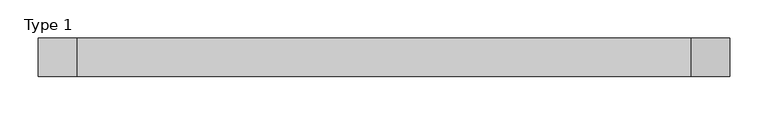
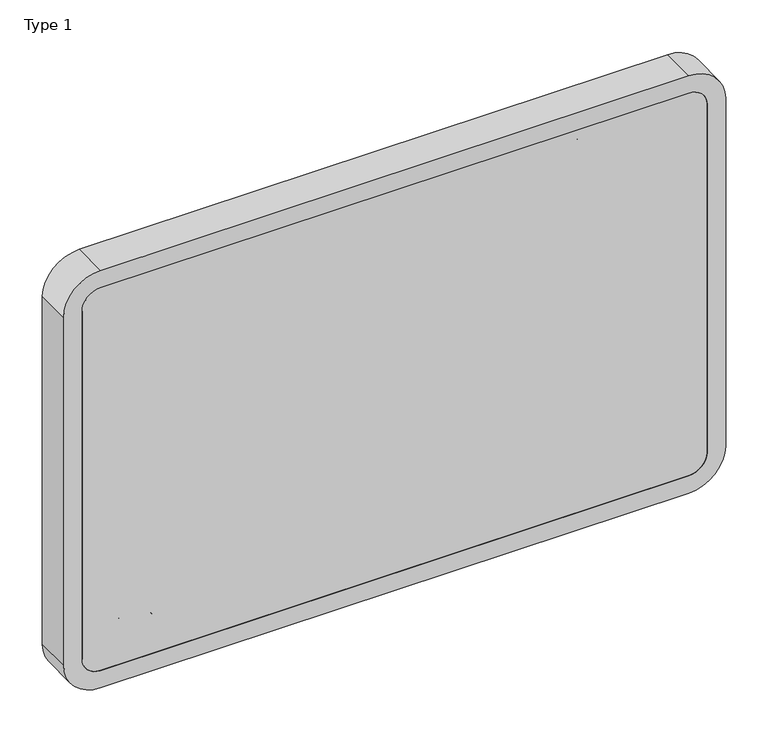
"""IFC4 building model written with IfcOpenShell, lengths in millimetres: proxy geometry, BIMHealth-Whiteboard-LOD2A-v1 : Type 1."""

import ifcopenshell
import ifcopenshell.guid

model = None  # the IFC model being written
_history = None  # IfcOwnerHistory: only IFC2X3 demands one
_inside = {}  # id of a spatial element -> (the spatial element, [elements in it])
_under = {}  # id of a project, library or spatial element -> (it, [spatial elements below it])
_declared = {}  # id of a project -> (the project, [libraries it declares])
_typed = {}  # id of a type object -> (the type object, [elements of that type])
_made_of = {}  # id of a material, layer set ... -> (it, [elements and type objects made of it])


def new_model(schema):
    """Start an empty IFC model of exactly this schema.

    Asked for "IFC4X3", IfcOpenShell would pick the latest addendum, in which some entities
    have other attributes; the version numbers below select the first issue.
    IFC2X3 requires an IfcOwnerHistory on every rooted entity: one is made here for all.
    """
    global model, _history
    if schema == "IFC4X3":
        model = ifcopenshell.file(schema_version=(4, 3, 0, 0))
    else:
        model = ifcopenshell.file(schema=schema)
    _inside.clear()
    _under.clear()
    _declared.clear()
    _typed.clear()
    _made_of.clear()
    _history = None
    if model.schema == "IFC2X3":
        org = make("IfcOrganization", Name="unknown")
        user = make(
            "IfcPersonAndOrganization",
            ThePerson=make("IfcPerson", FamilyName="unknown"),
            TheOrganization=org,
        )
        app = make(
            "IfcApplication",
            ApplicationDeveloper=org,
            Version="unknown",
            ApplicationFullName="unknown",
            ApplicationIdentifier="unknown",
        )
        _history = make(
            "IfcOwnerHistory",
            OwningUser=user,
            OwningApplication=app,
            ChangeAction="ADDED",
            CreationDate=0,
        )
    return model


def make(cls, **values):
    """One entity of the class cls with the attributes given. An attribute that is None is left unset."""
    return model.create_entity(
        cls, **{name: value for name, value in values.items() if value is not None}
    )


def rooted(cls, **values):
    """An entity with a GlobalId (a new one), such as an element, a storey or a relation."""
    return make(cls, GlobalId=ifcopenshell.guid.new(), OwnerHistory=_history, **values)


def si_unit(unit_type, name, prefix=None):
    """IfcSIUnit, for example si_unit("LENGTHUNIT", "METRE", prefix="MILLI")."""
    return make("IfcSIUnit", UnitType=unit_type, Prefix=prefix, Name=name)


def assignment(units):
    """IfcUnitAssignment: the units of a project."""
    return None if units is None else make("IfcUnitAssignment", Units=units)


def point(xyz):
    """IfcCartesianPoint."""
    return None if xyz is None else make("IfcCartesianPoint", Coordinates=xyz)


def direction(xyz):
    """IfcDirection."""
    return None if xyz is None else make("IfcDirection", DirectionRatios=xyz)


def frame(location, z_axis=None, x_axis=None):
    """IfcAxis2Placement3D, a coordinate frame: its origin and axes. An axis left out is left unset."""
    return make(
        "IfcAxis2Placement3D",
        Location=point(location),
        Axis=direction(z_axis),
        RefDirection=direction(x_axis),
    )


def frame_2d(location, x_axis=None):
    """IfcAxis2Placement2D, a coordinate frame in the plane: its origin and x axis."""
    return make(
        "IfcAxis2Placement2D", Location=point(location), RefDirection=direction(x_axis)
    )


def origin():
    """The frame at (0, 0, 0) with its axes left unset."""
    return frame((0.0, 0.0, 0.0))


def place(relative_to, where):
    """IfcLocalPlacement: puts the frame where relative to a parent placement (None: the world)."""
    return make(
        "IfcLocalPlacement", PlacementRelTo=relative_to, RelativePlacement=where
    )


def context(
    kind, dimensions, precision=None, world=None, true_north=None, identifier=None
):
    """IfcGeometricRepresentationContext, for example the 3D "Model" context."""
    return make(
        "IfcGeometricRepresentationContext",
        ContextIdentifier=identifier,
        ContextType=kind,
        CoordinateSpaceDimension=dimensions,
        Precision=precision,
        WorldCoordinateSystem=world,
        TrueNorth=true_north,
    )


def project(units=None, contexts=None):
    """IfcProject with its units and contexts."""
    return rooted(
        "IfcProject",
        Name="project",
        RepresentationContexts=contexts,
        UnitsInContext=assignment(units),
    )


def spatial(cls, under=None, at=None, **own):
    """A site, building, storey or space (cls), placed at a placement, below another one or the project."""
    s = rooted(cls, ObjectPlacement=at, **own)
    if under is not None:
        _under.setdefault(under.id(), (under, []))[1].append(s)
    return s


def polyline(points):
    """IfcPolyline through the points."""
    return make("IfcPolyline", Points=[point(p) for p in points])


def circle_curve(where, radius):
    """IfcCircle in the frame where."""
    return make("IfcCircle", Position=where, Radius=radius)


def trimmed(basis, trim1, trim2, sense, master):
    """IfcTrimmedCurve: the piece of a basis curve between two trims."""
    return make(
        "IfcTrimmedCurve",
        BasisCurve=basis,
        Trim1=trim1,
        Trim2=trim2,
        SenseAgreement=sense,
        MasterRepresentation=master,
    )


def segment(curve, same_sense, transition):
    """IfcCompositeCurveSegment."""
    return make(
        "IfcCompositeCurveSegment",
        Transition=transition,
        SameSense=same_sense,
        ParentCurve=curve,
    )


def composite_curve(segments, self_intersect=None):
    """IfcCompositeCurve: segments joined end to end."""
    return make("IfcCompositeCurve", Segments=segments, SelfIntersect=self_intersect)


def outline(outer, holes=None, kind="AREA"):
    """IfcArbitraryClosedProfileDef: a profile drawn as a closed curve; with holes, ...WithVoids."""
    if holes is None:
        return make("IfcArbitraryClosedProfileDef", ProfileType=kind, OuterCurve=outer)
    return make(
        "IfcArbitraryProfileDefWithVoids",
        ProfileType=kind,
        OuterCurve=outer,
        InnerCurves=holes,
    )


def extrude(swept, where, along, depth):
    """IfcExtrudedAreaSolid: the profile swept, set in the frame where, extruded along a direction by depth."""
    return make(
        "IfcExtrudedAreaSolid",
        SweptArea=swept,
        Position=where,
        ExtrudedDirection=direction(along),
        Depth=depth,
    )


def shape(context_of_items, identifier, shape_type, items):
    """IfcShapeRepresentation: the items that make up one representation, for example the "Body"."""
    return make(
        "IfcShapeRepresentation",
        ContextOfItems=context_of_items,
        RepresentationIdentifier=identifier,
        RepresentationType=shape_type,
        Items=items,
    )


def source(mapping_origin, context_of_items, identifier, shape_type, items):
    """IfcRepresentationMap: a shape defined once, which mapped items show again and again."""
    return make(
        "IfcRepresentationMap",
        MappingOrigin=mapping_origin,
        MappedRepresentation=shape(context_of_items, identifier, shape_type, items),
    )


def transform(
    local_origin,
    x_axis=None,
    y_axis=None,
    z_axis=None,
    scale=None,
    scale2=None,
    scale3=None,
    uniform=True,
):
    """IfcCartesianTransformationOperator3D, or its non-uniform kind. x_axis, y_axis, z_axis: its Axis1, 2, 3."""
    if uniform:
        return make(
            "IfcCartesianTransformationOperator3D",
            Axis1=direction(x_axis),
            Axis2=direction(y_axis),
            LocalOrigin=point(local_origin),
            Scale=scale,
            Axis3=direction(z_axis),
        )
    return make(
        "IfcCartesianTransformationOperator3DnonUniform",
        Axis1=direction(x_axis),
        Axis2=direction(y_axis),
        LocalOrigin=point(local_origin),
        Scale=scale,
        Axis3=direction(z_axis),
        Scale2=scale2,
        Scale3=scale3,
    )


def mapped(mapping_source, mapping_target):
    """IfcMappedItem: shows the shape of a source again, moved by a transform."""
    return make(
        "IfcMappedItem", MappingSource=mapping_source, MappingTarget=mapping_target
    )


def made_of(thing, what):
    """Note that an element or type object is made of a material, layer set ...; save() writes the relation."""
    if what is not None:
        _made_of.setdefault(what.id(), (what, []))[1].append(thing)
    return thing


def element(
    cls,
    number,
    at=None,
    inside=None,
    cuts=None,
    type_object=None,
    material=None,
    context=None,
    identifier="Body",
    shape_type=None,
    held_by="IfcProductDefinitionShape",
    body=None,
    shapes=None,
    **own,
):
    """One element of the class cls, such as IfcWall. Its Tag is "e" and its number.

    at: its placement. inside: the storey or other place that contains it. cuts: it is an
    opening in that element (IfcRelVoidsElement). A single representation is given by context,
    identifier, shape_type and body (its items); several are given by shapes. held_by: the class
    of the entity that holds the representations. save() writes the other relations.
    """
    e = rooted(cls, Tag="e%d" % number, ObjectPlacement=at, **own)
    if body is not None:
        shapes = [shape(context, identifier, shape_type, body)]
    if shapes is not None:
        e.Representation = make(held_by, Representations=shapes)
    if inside is not None:
        _inside.setdefault(inside.id(), (inside, []))[1].append(e)
    if cuts is not None:
        rooted(
            "IfcRelVoidsElement", RelatingBuildingElement=cuts, RelatedOpeningElement=e
        )
    if type_object is not None:
        _typed.setdefault(type_object.id(), (type_object, []))[1].append(e)
    return made_of(e, material)


def aggregate(whole, parts):
    """IfcRelAggregates: a whole, such as a stair, and the parts it consists of."""
    return rooted("IfcRelAggregates", RelatingObject=whole, RelatedObjects=parts)


def save(model, path):
    """Write the relations noted so far, then the file.

    IfcRelAggregates (storeys below a building ...), IfcRelContainedInSpatialStructure (elements
    in a storey), IfcRelDefinesByType, IfcRelAssociatesMaterial and IfcRelDeclares: one each for
    every whole, place, type object, material and project.
    """
    for whole, parts in _under.values():
        aggregate(whole, parts)
    for where, things in _inside.values():
        rooted(
            "IfcRelContainedInSpatialStructure",
            RelatedElements=things,
            RelatingStructure=where,
        )
    for kind, things in _typed.values():
        rooted("IfcRelDefinesByType", RelatedObjects=things, RelatingType=kind)
    for what, things in _made_of.values():
        rooted("IfcRelAssociatesMaterial", RelatedObjects=things, RelatingMaterial=what)
    for by, libraries in _declared.values():
        rooted("IfcRelDeclares", RelatingContext=by, RelatedDefinitions=libraries)
    model.write(path)


def type_1_565dec3e(model_context):
    return source(origin(), model_context, "Body", "SweptSolid", [
        extrude(outline(polyline([(1148.9216443, -104.2283221), (1173.5370289, -97.5155817), (1173.5370289, -100.6886586), (1157.3591443, -104.5828894), (1152.3651539, -105.7848125), (1156.7822212, -107.0708702), (1173.5370289, -111.9506779), (1173.5370289, -116.5239952), (1161.3915962, -120.0696683), (1152.3651539, -122.7078894), (1157.2149135, -123.8737548), (1173.5370289, -127.7980336), (1173.5370289, -130.9771202), (1148.9216443, -124.2703894), (1148.9216443, -120.9771202), (1167.9120289, -115.0696683), (1170.5622693, -114.246351), (1167.3711635, -113.3208702), (1148.9216443, -107.9422644), (1148.9216443, -104.2283221)])), frame((0.0, 85.0, 0.0), z_axis=(0.0, 1.0, 0.0), x_axis=(0.0, 0.0, 1.0)), (0.0, 0.0, 1.0), 2.0),
        extrude(outline(polyline([(1148.9216443, -133.6694279), (1173.5370289, -133.6694279), (1173.5370289, -136.746351), (1164.4865482, -136.746351), (1167.3831828, -142.1009183), (1166.5929183, -145.5564471), (1164.4084232, -147.6538029), (1160.363952, -148.2848125), (1148.9216443, -148.2848125), (1148.9216443, -145.2078894), (1160.0454424, -145.2078894), (1163.2906347, -144.2283221), (1164.3062597, -141.4518798), (1163.6211635, -138.9308461), (1161.7641924, -137.2481538), (1158.5250097, -136.746351), (1148.9216443, -136.746351), (1148.9216443, -133.6694279)])), frame((0.0, 85.0, 0.0), z_axis=(0.0, 1.0, 0.0), x_axis=(0.0, 0.0, 1.0)), (0.0, 0.0, 1.0), 2.0),
        extrude(outline(polyline([(-155.5925048, 87.0), (-152.5155817, 87.0), (-152.5155817, 85.0), (-155.5925048, 85.0), (-155.5925048, 87.0)])), frame((0.0, 0.0, 1148.9216443), z_axis=(0.0, 0.0, 1.0), x_axis=(1.0, 0.0, 0.0)), (0.0, 0.0, 1.0), 18.0769231),
        extrude(outline(polyline([(-155.5925048, 87.0), (-152.5155817, 87.0), (-152.5155817, 85.0), (-155.5925048, 85.0), (-155.5925048, 87.0)])), frame((0.0, 0.0, 1170.4601058), z_axis=(0.0, 0.0, 1.0), x_axis=(1.0, 0.0, 0.0)), (0.0, 0.0, 1.0), 3.0769231),
        extrude(outline(polyline([(1151.9354664, -165.2890192), (1148.8315001, -167.1309663), (1148.5370289, -164.8292836), (1149.0478462, -162.2511586), (1150.3879905, -160.965101), (1153.879577, -160.5925048), (1163.9216443, -160.5925048), (1163.9216443, -158.2848125), (1166.9985674, -158.2848125), (1166.9985674, -160.5925048), (1171.3915962, -160.5925048), (1173.2004905, -163.6694279), (1166.9985674, -163.6694279), (1166.9985674, -166.746351), (1163.9216443, -166.746351), (1163.9216443, -163.6694279), (1153.9697212, -163.6694279), (1151.9354664, -165.2890192)])), frame((0.0, 85.0, 0.0), z_axis=(0.0, 1.0, 0.0), x_axis=(0.0, 0.0, 1.0)), (0.0, 0.0, 1.0), 2.0),
        extrude(outline(polyline([(1154.3062597, -182.479524), (1153.9216443, -185.496351), (1149.9492885, -182.6748365), (1148.5370289, -177.4194279), (1150.973928, -171.0312067), (1157.8098655, -168.6694279), (1164.8711635, -171.0552452), (1167.3831828, -177.245149), (1164.8771732, -183.2577692), (1157.8278943, -185.5925048), (1156.9985674, -171.746351), (1153.0021732, -173.5161827), (1151.613952, -177.479524), (1152.2569808, -180.496351), (1154.3062597, -182.479524)]), holes=[polyline([(1160.0754905, -171.746351), (1160.0754905, -182.5155817), (1162.863952, -181.2836106), (1164.3062597, -177.2331298), (1163.1554183, -173.4440673), (1160.0754905, -171.746351)])]), frame((0.0, 85.0, 0.0), z_axis=(0.0, 1.0, 0.0), x_axis=(0.0, 0.0, 1.0)), (0.0, 0.0, 1.0), 2.0),
        extrude(outline(polyline([(1148.9216443, -191.746351), (1148.9216443, -188.6694279), (1173.5370289, -188.6694279), (1173.5370289, -191.746351), (1164.4084232, -191.746351), (1167.3831828, -196.5780817), (1166.7131107, -199.6610144), (1164.8290962, -202.0528413), (1161.8994087, -203.5221923), (1158.2305385, -204.0540433), (1151.067077, -201.8515192), (1148.5370289, -196.5600529), (1151.8002501, -191.746351), (1148.9216443, -191.746351)]), holes=[polyline([(1158.0863078, -191.746351), (1153.7834232, -192.5876971), (1151.613952, -196.2956298), (1153.2125097, -199.588899), (1157.9781347, -200.9771202), (1162.7617885, -199.6459904), (1164.3062597, -196.4278413), (1162.707702, -193.1345721), (1158.0863078, -191.746351)])]), frame((0.0, 85.0, 0.0), z_axis=(0.0, 1.0, 0.0), x_axis=(0.0, 0.0, 1.0)), (0.0, 0.0, 1.0), 2.0),
        extrude(outline(polyline([(1157.9601058, -206.746351), (1165.3819808, -209.4086106), (1167.3831828, -214.8292836), (1164.9462837, -220.6435865), (1158.2125097, -222.9001971), (1152.7377501, -221.902601), (1149.6397933, -218.9969519), (1148.5370289, -214.8292836), (1150.9649135, -208.9789231), (1157.9601058, -206.746351)]), holes=[polyline([(1157.9661155, -209.823274), (1153.1974857, -211.2475529), (1151.613952, -214.8292836), (1153.2065001, -218.3989952), (1158.0622693, -219.823274), (1162.722726, -218.3899808), (1164.3062597, -214.8292836), (1162.7287357, -211.2475529), (1157.9661155, -209.823274)])]), frame((0.0, 85.0, 0.0), z_axis=(0.0, 1.0, 0.0), x_axis=(0.0, 0.0, 1.0)), (0.0, 0.0, 1.0), 2.0),
        extrude(outline(polyline([(1151.2293366, -237.9001971), (1149.1440001, -234.9164231), (1148.5370289, -231.620149), (1149.9973655, -227.152), (1153.7293366, -225.5925048), (1156.1632308, -226.1814471), (1157.9300578, -227.7289231), (1158.9396732, -229.8833702), (1159.4024135, -232.5456298), (1160.4601058, -237.8821683), (1163.4168366, -237.0528413), (1164.3062597, -233.651399), (1163.7143126, -230.5384183), (1161.613952, -229.0540433), (1161.9985674, -225.9771202), (1165.0033751, -227.30825), (1166.7641924, -229.9885385), (1167.3831828, -234.0480336), (1166.8363078, -237.777), (1165.4631107, -239.8833702), (1163.3747693, -240.8268798), (1160.6824616, -240.9771202), (1156.8543366, -240.9771202), (1151.5087837, -241.1333702), (1148.9216443, -241.746351), (1148.9216443, -238.6694279), (1151.2293366, -237.9001971)]), holes=[polyline([(1156.9474857, -237.8911827), (1156.4396732, -232.9362548), (1155.9408751, -230.2890192), (1152.2810193, -229.5858942), (1151.613952, -232.2751971), (1152.3501299, -235.3881779), (1154.1319808, -237.3953894), (1156.9474857, -237.8911827)])]), frame((0.0, 85.0, 0.0), z_axis=(0.0, 1.0, 0.0), x_axis=(0.0, 0.0, 1.0)), (0.0, 0.0, 1.0), 2.0),
        extrude(outline(polyline([(1148.9216443, -245.2078894), (1166.9985674, -245.2078894), (1166.9985674, -247.9001971), (1164.3242885, -247.9001971), (1166.7882308, -249.8112548), (1167.3831828, -251.7343317), (1166.4336635, -254.823274), (1163.6752501, -253.7956298), (1164.3062597, -251.6321683), (1163.6992885, -249.8923846), (1162.0165962, -248.7836106), (1158.4228462, -248.2848125), (1148.9216443, -248.2848125), (1148.9216443, -245.2078894)])), frame((0.0, 85.0, 0.0), z_axis=(0.0, 1.0, 0.0), x_axis=(0.0, 0.0, 1.0)), (0.0, 0.0, 1.0), 2.0),
        extrude(outline(polyline([(1148.9216443, -267.9001971), (1151.8242885, -267.9001971), (1148.5370289, -263.0504375), (1149.7269328, -259.2403413), (1153.0472453, -256.5480336), (1157.942077, -255.5925048), (1162.8399135, -256.4729135), (1166.2113078, -259.1111346), (1167.3831828, -263.0384183), (1166.5448414, -265.8749567), (1164.3663558, -267.9001971), (1173.5370289, -267.9001971), (1173.5370289, -270.9771202), (1148.9216443, -270.9771202), (1148.9216443, -267.9001971)]), holes=[polyline([(1157.9540962, -258.6694279), (1153.191476, -260.057649), (1151.613952, -263.3328894), (1153.1193607, -266.5690673), (1157.7197212, -267.9001971), (1162.7137116, -266.5450288), (1164.3062597, -263.2066875), (1162.7768126, -259.9675048), (1157.9540962, -258.6694279)])]), frame((0.0, 85.0, 0.0), z_axis=(0.0, 1.0, 0.0), x_axis=(0.0, 0.0, 1.0)), (0.0, 0.0, 1.0), 2.0),
        extrude(outline(polyline([(1618.9216443, 510.176726), (1643.5370289, 510.176726), (1643.5370289, 500.7836971), (1642.8128703, 496.1833365), (1640.5863078, 493.4669904), (1637.4372693, 492.4844183), (1634.5616683, 493.3107404), (1632.3831828, 495.8077356), (1630.0875097, 492.7758846), (1626.2593847, 491.7151875), (1622.9510914, 492.4393462), (1620.5953222, 494.2332164), (1619.3453222, 496.9105), (1618.9216443, 500.8558125), (1618.9216443, 510.176726)]), holes=[polyline([(1633.5370289, 507.0998029), (1633.5370289, 501.4808125), (1633.801452, 498.1995625), (1634.9402741, 496.2254039), (1636.9444808, 495.5613414), (1638.9516924, 496.1803317), (1640.1385914, 497.9531683), (1640.4601058, 501.9074952), (1640.4601058, 507.0998029), (1633.5370289, 507.0998029)]), polyline([(1621.9985674, 507.0998029), (1621.9985674, 500.7897067), (1622.1187597, 498.5060529), (1622.7888318, 496.5739615), (1624.1560193, 495.2939135), (1626.2293366, 494.7921106), (1628.6211635, 495.3810529), (1630.0484472, 497.2891058), (1630.4601058, 501.0901875), (1630.4601058, 507.0998029), (1621.9985674, 507.0998029)])]), frame((0.0, 85.0, 0.0), z_axis=(0.0, 1.0, 0.0), x_axis=(0.0, 0.0, 1.0)), (0.0, 0.0, 1.0), 2.0),
        extrude(outline(polyline([(484.0228798, 87.0), (487.0998029, 87.0), (487.0998029, 85.0), (484.0228798, 85.0), (484.0228798, 87.0)])), frame((0.0, 0.0, 1618.9216443), z_axis=(0.0, 0.0, 1.0), x_axis=(1.0, 0.0, 0.0)), (0.0, 0.0, 1.0), 24.6153846),
        extrude(outline(polyline([(1618.9216443, 477.8690337), (1643.5370289, 477.8690337), (1643.5370289, 472.5925914), (1626.1872693, 467.5445144), (1622.5634712, 466.5228798), (1626.4877501, 465.4231202), (1643.5370289, 460.4711971), (1643.5370289, 455.176726), (1618.9216443, 455.176726), (1618.9216443, 458.253649), (1640.4601058, 458.253649), (1618.9216443, 464.4375433), (1618.9216443, 468.6022067), (1640.4601058, 474.7921106), (1618.9216443, 474.7921106), (1618.9216443, 477.8690337)])), frame((0.0, 85.0, 0.0), z_axis=(0.0, 1.0, 0.0), x_axis=(0.0, 0.0, 1.0)), (0.0, 0.0, 1.0), 2.0),
        extrude(outline(polyline([(1618.9216443, 440.176726), (1643.5370289, 440.176726), (1643.5370289, 437.0998029), (1633.5370289, 437.0998029), (1633.5370289, 424.0228798), (1643.5370289, 424.0228798), (1643.5370289, 420.9459567), (1618.9216443, 420.9459567), (1618.9216443, 424.0228798), (1630.4601058, 424.0228798), (1630.4601058, 437.0998029), (1618.9216443, 437.0998029), (1618.9216443, 440.176726)])), frame((0.0, 85.0, 0.0), z_axis=(0.0, 1.0, 0.0), x_axis=(0.0, 0.0, 1.0)), (0.0, 0.0, 1.0), 2.0),
        extrude(outline(polyline([(1624.3062597, 403.2897067), (1623.9216443, 400.2728798), (1619.9492885, 403.0943942), (1618.5370289, 408.3498029), (1620.973928, 414.738024), (1627.8098655, 417.0998029), (1634.8711635, 414.7139856), (1637.3831828, 408.5240817), (1634.8771732, 402.5114615), (1627.8278943, 400.176726), (1626.9985674, 414.0228798), (1623.0021732, 412.2530481), (1621.613952, 408.2897067), (1622.2569808, 405.2728798), (1624.3062597, 403.2897067)]), holes=[polyline([(1630.0754905, 414.0228798), (1630.0754905, 403.253649), (1632.863952, 404.4856202), (1634.3062597, 408.536101), (1633.1554183, 412.3251635), (1630.0754905, 414.0228798)])]), frame((0.0, 85.0, 0.0), z_axis=(0.0, 1.0, 0.0), x_axis=(0.0, 0.0, 1.0)), (0.0, 0.0, 1.0), 2.0),
        extrude(outline(polyline([(1621.2293366, 385.5613414), (1619.1440001, 388.5451154), (1618.5370289, 391.8413894), (1619.9973655, 396.3095385), (1623.7293366, 397.8690337), (1626.1632308, 397.2800914), (1627.9300578, 395.7326154), (1628.9396732, 393.5781683), (1629.4024135, 390.9159087), (1630.4601058, 385.5793702), (1633.4168366, 386.4086971), (1634.3062597, 389.8101394), (1633.7143126, 392.9231202), (1631.613952, 394.4074952), (1631.9985674, 397.4844183), (1635.0033751, 396.1532885), (1636.7641924, 393.473), (1637.3831828, 389.4135048), (1636.8363078, 385.6845385), (1635.4631107, 383.5781683), (1633.3747693, 382.6346587), (1630.6824616, 382.4844183), (1626.8543366, 382.4844183), (1621.5087837, 382.3281683), (1618.9216443, 381.7151875), (1618.9216443, 384.7921106), (1621.2293366, 385.5613414)]), holes=[polyline([(1626.9474857, 385.5703558), (1626.4396732, 390.5252837), (1625.9408751, 393.1725192), (1622.2810193, 393.8756442), (1621.613952, 391.1863414), (1622.3501299, 388.0733606), (1624.1319808, 386.066149), (1626.9474857, 385.5703558)])]), frame((0.0, 85.0, 0.0), z_axis=(0.0, 1.0, 0.0), x_axis=(0.0, 0.0, 1.0)), (0.0, 0.0, 1.0), 2.0),
        extrude(outline(polyline([(375.176726, 87.0), (378.253649, 87.0), (378.253649, 85.0), (375.176726, 85.0), (375.176726, 87.0)])), frame((0.0, 0.0, 1618.9216443), z_axis=(0.0, 0.0, 1.0), x_axis=(1.0, 0.0, 0.0)), (0.0, 0.0, 1.0), 24.6153846),
        extrude(outline(polyline([(1621.9354664, 365.4802115), (1618.8315001, 363.6382644), (1618.5370289, 365.9399471), (1619.0478462, 368.5180721), (1620.3879905, 369.8041298), (1623.879577, 370.176726), (1633.9216443, 370.176726), (1633.9216443, 372.4844183), (1636.9985674, 372.4844183), (1636.9985674, 370.176726), (1641.3915962, 370.176726), (1643.2004905, 367.0998029), (1636.9985674, 367.0998029), (1636.9985674, 364.0228798), (1633.9216443, 364.0228798), (1633.9216443, 367.0998029), (1623.9697212, 367.0998029), (1621.9354664, 365.4802115)])), frame((0.0, 85.0, 0.0), z_axis=(0.0, 1.0, 0.0), x_axis=(0.0, 0.0, 1.0)), (0.0, 0.0, 1.0), 2.0),
        extrude(outline(polyline([(1618.9216443, 360.9459567), (1643.5370289, 360.9459567), (1643.5370289, 357.8690337), (1634.4865482, 357.8690337), (1637.3831828, 352.5144664), (1636.5929183, 349.0589375), (1634.4084232, 346.9615817), (1630.363952, 346.3305721), (1618.9216443, 346.3305721), (1618.9216443, 349.4074952), (1630.0454424, 349.4074952), (1633.2906347, 350.3870625), (1634.3062597, 353.1635048), (1633.6211635, 355.6845385), (1631.7641924, 357.3672308), (1628.5250097, 357.8690337), (1618.9216443, 357.8690337), (1618.9216443, 360.9459567)])), frame((0.0, 85.0, 0.0), z_axis=(0.0, 1.0, 0.0), x_axis=(0.0, 0.0, 1.0)), (0.0, 0.0, 1.0), 2.0),
        extrude(outline(composite_curve([segment(trimmed(circle_curve(frame_2d((1650.0, -275.0)), 50.0), [point((1700.0, -275.0))], [point((1650.0, -325.0))], False, "CARTESIAN"), True, "CONTINUOUS"), segment(polyline([(1650.0, -325.0), (1150.0, -325.0)]), True, "CONTINUOUS"), segment(trimmed(circle_curve(frame_2d((1150.0, -275.0)), 50.0), [point((1150.0, -325.0))], [point((1100.0, -275.0))], False, "CARTESIAN"), True, "CONTINUOUS"), segment(polyline([(1100.0, -275.0), (1100.0, 525.0)]), True, "CONTINUOUS"), segment(trimmed(circle_curve(frame_2d((1150.0, 525.0)), 50.0), [point((1100.0, 525.0))], [point((1150.0, 575.0))], False, "CARTESIAN"), True, "CONTINUOUS"), segment(polyline([(1150.0, 575.0), (1650.0, 575.0)]), True, "CONTINUOUS"), segment(trimmed(circle_curve(frame_2d((1650.0, 525.0)), 50.0), [point((1650.0, 575.0))], [point((1700.0, 525.0))], False, "CARTESIAN"), True, "CONTINUOUS"), segment(polyline([(1700.0, 525.0), (1700.0, -275.0)]), True, "CONTINUOUS")], self_intersect=False), holes=[composite_curve([segment(polyline([(1675.0, -275.0), (1675.0, 525.0)]), True, "CONTINUOUS"), segment(trimmed(circle_curve(frame_2d((1650.0, 525.0)), 25.0), [point((1675.0, 525.0))], [point((1650.0, 550.0))], True, "CARTESIAN"), True, "CONTINUOUS"), segment(polyline([(1650.0, 550.0), (1150.0, 550.0)]), True, "CONTINUOUS"), segment(trimmed(circle_curve(frame_2d((1150.0, 525.0)), 25.0), [point((1150.0, 550.0))], [point((1125.0, 525.0))], True, "CARTESIAN"), True, "CONTINUOUS"), segment(polyline([(1125.0, 525.0), (1125.0, -275.0)]), True, "CONTINUOUS"), segment(trimmed(circle_curve(frame_2d((1150.0, -275.0)), 25.0), [point((1125.0, -275.0))], [point((1150.0, -300.0))], True, "CARTESIAN"), True, "CONTINUOUS"), segment(polyline([(1150.0, -300.0), (1650.0, -300.0)]), True, "CONTINUOUS"), segment(trimmed(circle_curve(frame_2d((1650.0, -275.0)), 25.0), [point((1650.0, -300.0))], [point((1675.0, -275.0))], True, "CARTESIAN"), True, "CONTINUOUS")], self_intersect=False)]), frame((0.0, 50.0, 0.0), z_axis=(0.0, 1.0, 0.0), x_axis=(0.0, 0.0, 1.0)), (0.0, 0.0, 1.0), 50.0),
        extrude(outline(composite_curve([segment(trimmed(circle_curve(frame_2d((1650.0, -275.0)), 25.0), [point((1675.0, -275.0))], [point((1650.0, -300.0))], False, "CARTESIAN"), True, "CONTINUOUS"), segment(polyline([(1650.0, -300.0), (1150.0, -300.0)]), True, "CONTINUOUS"), segment(trimmed(circle_curve(frame_2d((1150.0, -275.0)), 25.0), [point((1150.0, -300.0))], [point((1125.0, -275.0))], False, "CARTESIAN"), True, "CONTINUOUS"), segment(polyline([(1125.0, -275.0), (1125.0, 525.0)]), True, "CONTINUOUS"), segment(trimmed(circle_curve(frame_2d((1150.0, 525.0)), 25.0), [point((1125.0, 525.0))], [point((1150.0, 550.0))], False, "CARTESIAN"), True, "CONTINUOUS"), segment(polyline([(1150.0, 550.0), (1650.0, 550.0)]), True, "CONTINUOUS"), segment(trimmed(circle_curve(frame_2d((1650.0, 525.0)), 25.0), [point((1650.0, 550.0))], [point((1675.0, 525.0))], False, "CARTESIAN"), True, "CONTINUOUS"), segment(polyline([(1675.0, 525.0), (1675.0, -275.0)]), True, "CONTINUOUS")], self_intersect=False)), frame((0.0, 50.0, 0.0), z_axis=(0.0, 1.0, 0.0), x_axis=(0.0, 0.0, 1.0)), (0.0, 0.0, 1.0), 35.0),
    ])


if __name__ == "__main__":
    model = new_model("IFC4")
    model_context = context("Model", 3, world=origin())
    ifc_project = project(units=[si_unit("LENGTHUNIT", "METRE", prefix="MILLI")], contexts=[model_context])
    site = spatial("IfcSite", under=ifc_project)
    building = spatial("IfcBuilding", under=site)
    placement = place(None, origin())
    type_1_shape = type_1_565dec3e(model_context)
    element("IfcBuildingElementProxy", 1, Name="BIMHealth-Whiteboard-LOD2A-v1 : Type 1", ObjectType="BIMHealth-Whiteboard-LOD2A-v1 : Type 1", at=placement, inside=building, context=model_context, shape_type="MappedRepresentation", body=[
        mapped(type_1_shape, transform((0.0, 0.0, 0.0), x_axis=(1.0, 0.0, 0.0), y_axis=(0.0, 1.0, 0.0), z_axis=(0.0, 0.0, 1.0))),
    ])
    save(model, "model.ifc")
